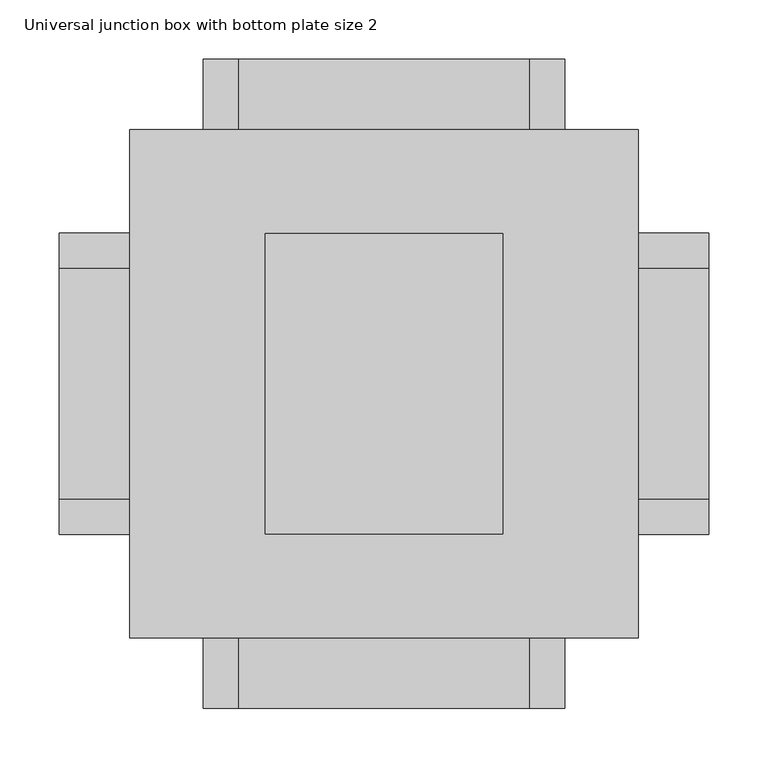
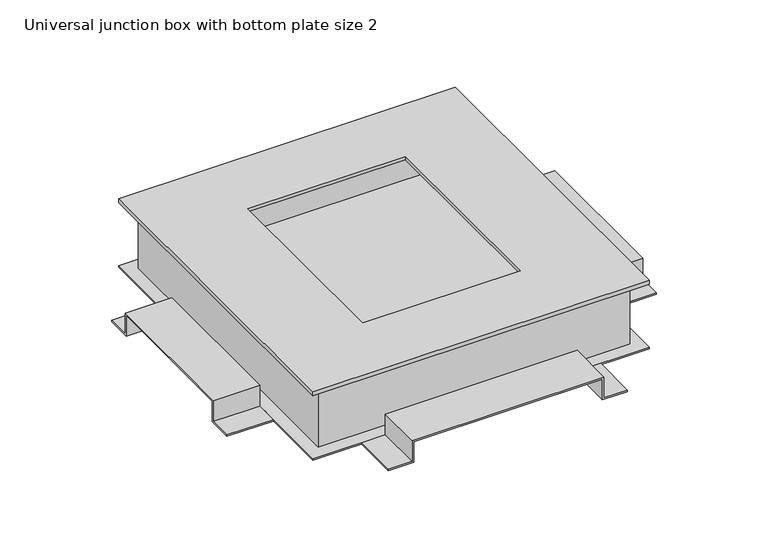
"""IFC4 building model written with IfcOpenShell, lengths in millimetres: cable carrier fitting geometry, Electrical-Installations_Hager_Universal-Junction-Box-With-Bottom-Plate-Size-2 : Universal junction box with bottom plate size 2."""

from ifc_helpers import new_model, si_unit, frame, origin, place, context, project, spatial, polyline, outline, extrude, faceted_brep, source, transform, mapped, element, save


def universal_junction_box_with_bottom_plate_size_2_4473feed(model_context):
    return source(origin(), model_context, "Body", "SolidModel", [
        extrude(outline(polyline([(-14.0, -152.0), (-14.0, -120.0), (14.0, -120.0), (14.0, 120.0), (-14.0, 120.0), (-14.0, 152.0), (-12.0, 152.0), (-12.0, 122.0), (16.0, 122.0), (16.0, -122.0), (-12.0, -122.0), (-12.0, -152.0), (-14.0, -152.0)])), frame((0.0, 214.0, 0.0), z_axis=(0.0, 1.0, 0.0), x_axis=(0.0, 0.0, 1.0)), (0.0, 0.0, 1.0), 59.0),
        extrude(outline(polyline([(-127.0, -14.0), (-127.0, -12.0), (-97.0, -12.0), (-97.0, 16.0), (97.0, 16.0), (97.0, -12.0), (127.0, -12.0), (127.0, -14.0), (95.0, -14.0), (95.0, 14.0), (-95.0, 14.0), (-95.0, -14.0), (-127.0, -14.0)])), frame((-273.0, 0.0, 0.0), z_axis=(1.0, 0.0, 0.0), x_axis=(0.0, 1.0, 0.0)), (0.0, 0.0, 1.0), 59.0),
        extrude(outline(polyline([(-14.0, -152.0), (-14.0, -120.0), (14.0, -120.0), (14.0, 120.0), (-14.0, 120.0), (-14.0, 152.0), (-12.0, 152.0), (-12.0, 122.0), (16.0, 122.0), (16.0, -122.0), (-12.0, -122.0), (-12.0, -152.0), (-14.0, -152.0)])), frame((0.0, -273.0, 0.0), z_axis=(0.0, 1.0, 0.0), x_axis=(0.0, 0.0, 1.0)), (0.0, 0.0, 1.0), 59.0),
        extrude(outline(polyline([(-127.0, -14.0), (-127.0, -12.0), (-97.0, -12.0), (-97.0, 16.0), (97.0, 16.0), (97.0, -12.0), (127.0, -12.0), (127.0, -14.0), (95.0, -14.0), (95.0, 14.0), (-95.0, 14.0), (-95.0, -14.0), (-127.0, -14.0)])), frame((214.0, 0.0, 0.0), z_axis=(1.0, 0.0, 0.0), x_axis=(0.0, 1.0, 0.0)), (0.0, 0.0, 1.0), 59.0),
        faceted_brep([(-214.0, -214.0, 78.0), (214.0, -214.0, 78.0), (214.0, 214.0, 78.0), (-214.0, 214.0, 78.0), (-100.0, 126.5, 78.0), (100.0, 126.5, 78.0), (100.0, -126.5, 78.0), (-100.0, -126.5, 78.0), (-214.0, -214.0, 73.0), (-214.0, 214.0, 73.0), (214.0, 214.0, 73.0), (214.0, -214.0, 73.0), (192.0, 192.0, 73.0), (-192.0, 192.0, 73.0), (-192.0, -192.0, 73.0), (192.0, -192.0, 73.0), (-100.0, 126.5, 73.7820613), (100.0, 126.5, 73.7820613), (100.0, -126.5, 73.7820613), (-100.0, -126.5, 73.7820613), (192.0, 192.0, 73.7820613), (192.0, -192.0, 73.7820613), (-192.0, -192.0, 73.7820613), (-192.0, 192.0, 73.7820613)], [[[0, 1, 2, 3], [4, 5, 6, 7]], [[8, 9, 10, 11], [12, 13, 14, 15]], [[1, 0, 8, 11]], [[2, 1, 11, 10]], [[3, 2, 10, 9]], [[0, 3, 9, 8]], [[5, 4, 16, 17]], [[6, 5, 17, 18]], [[7, 6, 18, 19]], [[4, 7, 19, 16]], [[20, 21, 22, 23], [17, 16, 19, 18]], [[20, 23, 13, 12]], [[23, 22, 14, 13]], [[22, 21, 15, 14]], [[21, 20, 12, 15]]]),
        extrude(outline(polyline([(214.0, 214.0), (214.0, -214.0), (-214.0, -214.0), (-214.0, 214.0), (214.0, 214.0)])), frame((0.0, 0.0, -14.0), z_axis=(0.0, 0.0, 1.0), x_axis=(1.0, 0.0, 0.0)), (0.0, 0.0, 1.0), 2.0),
        faceted_brep([(-198.0, 198.0, 73.0), (-198.0, -198.0, 73.0), (198.0, -198.0, 73.0), (198.0, 198.0, 73.0), (-192.0, 192.0, 73.0), (192.0, 192.0, 73.0), (192.0, -192.0, 73.0), (-192.0, -192.0, 73.0), (-198.0, 198.0, -14.0), (198.0, 198.0, -14.0), (198.0, -198.0, -14.0), (-198.0, -198.0, -14.0), (192.0, 192.0, -6.1362798), (-192.0, 192.0, -6.1362798), (-192.0, -192.0, -6.1362798), (192.0, -192.0, -6.1362798)], [[[0, 1, 2, 3], [4, 5, 6, 7]], [[8, 9, 10, 11]], [[1, 0, 8, 11]], [[2, 1, 11, 10]], [[3, 2, 10, 9]], [[0, 3, 9, 8]], [[12, 13, 14, 15]], [[13, 12, 5, 4]], [[14, 13, 4, 7]], [[15, 14, 7, 6]], [[12, 15, 6, 5]]]),
    ])


if __name__ == "__main__":
    model = new_model("IFC4")
    model_context = context("Model", 3, world=origin())
    ifc_project = project(units=[si_unit("LENGTHUNIT", "METRE", prefix="MILLI")], contexts=[model_context])
    site = spatial("IfcSite", under=ifc_project)
    building = spatial("IfcBuilding", under=site)
    placement = place(None, origin())
    universal_junction_box_with_bottom_plate_size_2_shape = universal_junction_box_with_bottom_plate_size_2_4473feed(model_context)
    element("IfcCableCarrierFitting", 1, ObjectType="Electrical-Installations_Hager_Universal-Junction-Box-With-Bottom-Plate-Size-2 : Universal junction box with bottom plate size 2", at=placement, inside=building, context=model_context, shape_type="MappedRepresentation", body=[
        mapped(universal_junction_box_with_bottom_plate_size_2_shape, transform((0.0, 0.0, 0.0), x_axis=(1.0, 0.0, 0.0), y_axis=(0.0, 1.0, 0.0), z_axis=(0.0, 0.0, 1.0))),
    ])
    save(model, "model.ifc")
